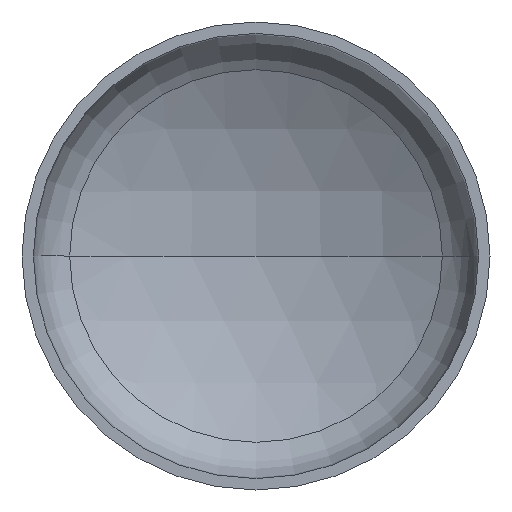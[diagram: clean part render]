
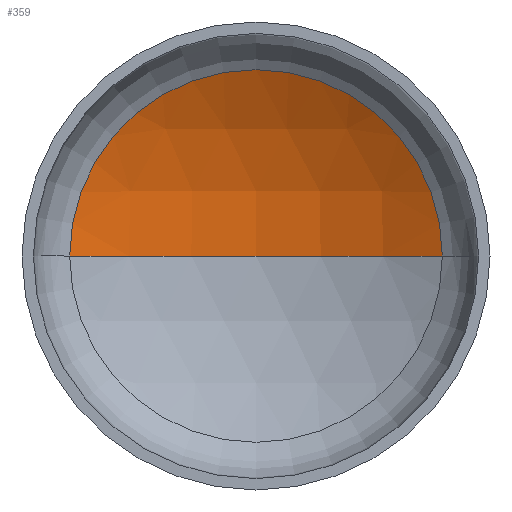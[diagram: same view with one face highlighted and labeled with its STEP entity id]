
A CAD part, front view. The second image highlights one B-rep face of the part: STEP entity #359.
In plain terms, the highlighted spherical face has radius 2880 mm.
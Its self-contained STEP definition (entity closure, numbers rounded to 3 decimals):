
#6 = EDGE_LOOP ( 'NONE', ( #328, #32, #89 ) ) ;
#29 = AXIS2_PLACEMENT_3D ( 'NONE', #87, #165, #302 ) ;
#32 = ORIENTED_EDGE ( 'NONE', *, *, #213, .T. ) ;
#53 = VERTEX_POINT ( 'NONE', #252 ) ;
#73 = VERTEX_POINT ( 'NONE', #258 ) ;
#85 = AXIS2_PLACEMENT_3D ( 'NONE', #284, #282, #275 ) ;
#87 = CARTESIAN_POINT ( 'NONE',  ( 0., -1916.674, 0. ) ) ;
#89 = ORIENTED_EDGE ( 'NONE', *, *, #212, .T. ) ;
#93 = AXIS2_PLACEMENT_3D ( 'NONE', #201, #203, #225 ) ;
#107 = VERTEX_POINT ( 'NONE', #345 ) ;
#112 = AXIS2_PLACEMENT_3D ( 'NONE', #410, #246, #272 ) ;
#156 = CIRCLE ( 'NONE', #85, 2880. ) ;
#165 = DIRECTION ( 'NONE',  ( 0., 0., -1. ) ) ;
#201 = CARTESIAN_POINT ( 'NONE',  ( 0., -1916.674, 0. ) ) ;
#203 = DIRECTION ( 'NONE',  ( 0., 0., -1. ) ) ;
#212 = EDGE_CURVE ( 'NONE', #53, #73, #296, .T. ) ;
#213 = EDGE_CURVE ( 'NONE', #107, #53, #238, .T. ) ;
#218 = EDGE_CURVE ( 'NONE', #107, #73, #156, .T. ) ;
#225 = DIRECTION ( 'NONE',  ( -1., 0., 0. ) ) ;
#238 = CIRCLE ( 'NONE', #93, 2880. ) ;
#246 = DIRECTION ( 'NONE',  ( 0., -1., 0. ) ) ;
#252 = CARTESIAN_POINT ( 'NONE',  ( 1433.187, 581.4, 0. ) ) ;
#258 = CARTESIAN_POINT ( 'NONE',  ( -1433.187, 581.4, 0. ) ) ;
#270 = SPHERICAL_SURFACE ( 'NONE', #29, 2880. ) ;
#272 = DIRECTION ( 'NONE',  ( 1., 0., 0. ) ) ;
#275 = DIRECTION ( 'NONE',  ( 1., 0., 0. ) ) ;
#282 = DIRECTION ( 'NONE',  ( 0., 0., 1. ) ) ;
#284 = CARTESIAN_POINT ( 'NONE',  ( 0., -1916.674, 0. ) ) ;
#296 = CIRCLE ( 'NONE', #112, 1433.187 ) ;
#302 = DIRECTION ( 'NONE',  ( -1., 0., 0. ) ) ;
#328 = ORIENTED_EDGE ( 'NONE', *, *, #218, .F. ) ;
#345 = CARTESIAN_POINT ( 'NONE',  ( 0., 963.326, 0. ) ) ;
#359 = ADVANCED_FACE ( 'NONE', ( #390 ), #270, .F. ) ;
#390 = FACE_OUTER_BOUND ( 'NONE', #6, .T. ) ;
#410 = CARTESIAN_POINT ( 'NONE',  ( 0., 581.4, 0. ) ) ;
